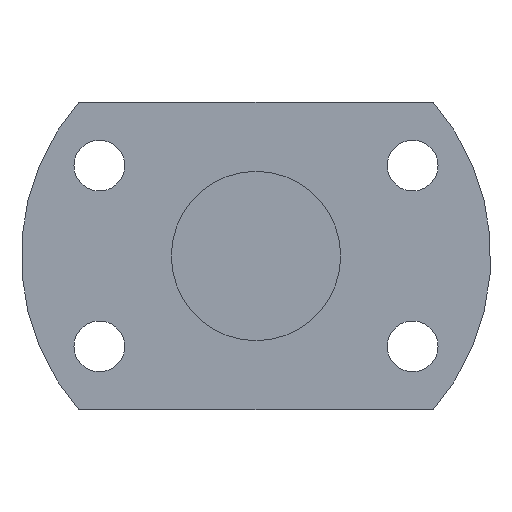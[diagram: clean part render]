
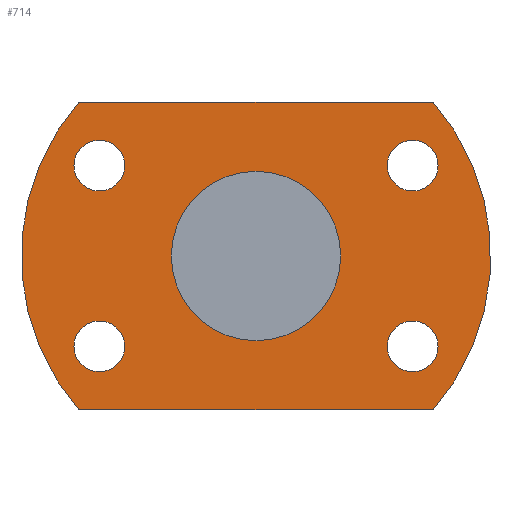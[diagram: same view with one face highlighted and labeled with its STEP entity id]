
A CAD part, left-side view. The second image highlights one B-rep face of the part: STEP entity #714.
In plain terms, the highlighted planar face has unit normal (-1, 0, 0).
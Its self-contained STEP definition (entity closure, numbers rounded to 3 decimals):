
#230=CARTESIAN_POINT('',(125.0,20.352,-8.45));
#231=VERTEX_POINT('',#230);
#232=CARTESIAN_POINT('',(125.0,20.352,-11.75));
#233=DIRECTION('',(1.0,0.0,0.0));
#234=DIRECTION('',(0.0,0.0,1.0));
#235=AXIS2_PLACEMENT_3D('',#232,#233,#234);
#236=CIRCLE('',#235,3.3);
#237=EDGE_CURVE('',#231,#231,#236,.T.);
#279=CARTESIAN_POINT('',(125.0,-20.352,15.05));
#280=VERTEX_POINT('',#279);
#281=CARTESIAN_POINT('',(125.0,-20.352,11.75));
#282=DIRECTION('',(1.0,0.0,0.0));
#283=DIRECTION('',(0.0,0.0,1.0));
#284=AXIS2_PLACEMENT_3D('',#281,#282,#283);
#285=CIRCLE('',#284,3.3);
#286=EDGE_CURVE('',#280,#280,#285,.T.);
#328=CARTESIAN_POINT('',(125.0,-20.352,-8.45));
#329=VERTEX_POINT('',#328);
#330=CARTESIAN_POINT('',(125.0,-20.352,-11.75));
#331=DIRECTION('',(1.0,0.0,0.0));
#332=DIRECTION('',(0.0,0.0,1.0));
#333=AXIS2_PLACEMENT_3D('',#330,#331,#332);
#334=CIRCLE('',#333,3.3);
#335=EDGE_CURVE('',#329,#329,#334,.T.);
#377=CARTESIAN_POINT('',(125.0,20.352,15.05));
#378=VERTEX_POINT('',#377);
#379=CARTESIAN_POINT('',(125.0,20.352,11.75));
#380=DIRECTION('',(1.0,0.0,0.0));
#381=DIRECTION('',(0.0,0.0,1.0));
#382=AXIS2_PLACEMENT_3D('',#379,#380,#381);
#383=CIRCLE('',#382,3.3);
#384=EDGE_CURVE('',#378,#378,#383,.T.);
#548=CARTESIAN_POINT('',(125.0,-23.027,-20.0));
#549=VERTEX_POINT('',#548);
#556=CARTESIAN_POINT('',(125.0,23.027,-20.0));
#557=VERTEX_POINT('',#556);
#558=CARTESIAN_POINT('',(125.0,23.027,-20.0));
#559=DIRECTION('',(0.0,-1.0,0.0));
#560=VECTOR('',#559,46.054);
#561=LINE('',#558,#560);
#562=EDGE_CURVE('',#557,#549,#561,.T.);
#579=CARTESIAN_POINT('',(125.0,-23.027,20.0));
#580=VERTEX_POINT('',#579);
#587=CARTESIAN_POINT('',(125.0,0.0,0.0));
#588=DIRECTION('',(-1.0,0.0,0.0));
#589=DIRECTION('',(0.0,0.0,1.0));
#590=AXIS2_PLACEMENT_3D('',#587,#588,#589);
#591=CIRCLE('',#590,30.5);
#592=EDGE_CURVE('',#549,#580,#591,.T.);
#604=CARTESIAN_POINT('',(125.0,23.027,20.0));
#605=VERTEX_POINT('',#604);
#612=CARTESIAN_POINT('',(125.0,-23.027,20.0));
#613=DIRECTION('',(0.0,1.0,0.0));
#614=VECTOR('',#613,46.054);
#615=LINE('',#612,#614);
#616=EDGE_CURVE('',#580,#605,#615,.T.);
#629=CARTESIAN_POINT('',(125.0,0.0,0.0));
#630=DIRECTION('',(-1.0,0.0,0.0));
#631=DIRECTION('',(0.0,0.0,1.0));
#632=AXIS2_PLACEMENT_3D('',#629,#630,#631);
#633=CIRCLE('',#632,30.5);
#634=EDGE_CURVE('',#605,#557,#633,.T.);
#680=CARTESIAN_POINT('',(125.0,0.0,14.5));
#681=DIRECTION('',(-1.0,0.0,0.0));
#682=DIRECTION('',(0.0,0.0,1.0));
#683=AXIS2_PLACEMENT_3D('',#680,#681,#682);
#684=PLANE('',#683);
#685=ORIENTED_EDGE('',*,*,#634,.T.);
#686=ORIENTED_EDGE('',*,*,#562,.T.);
#687=ORIENTED_EDGE('',*,*,#592,.T.);
#688=ORIENTED_EDGE('',*,*,#616,.T.);
#689=EDGE_LOOP('',(#685,#686,#687,#688));
#690=FACE_OUTER_BOUND('',#689,.T.);
#691=ORIENTED_EDGE('',*,*,#237,.T.);
#692=EDGE_LOOP('',(#691));
#693=FACE_BOUND('',#692,.T.);
#694=ORIENTED_EDGE('',*,*,#286,.T.);
#695=EDGE_LOOP('',(#694));
#696=FACE_BOUND('',#695,.T.);
#697=ORIENTED_EDGE('',*,*,#335,.T.);
#698=EDGE_LOOP('',(#697));
#699=FACE_BOUND('',#698,.T.);
#700=ORIENTED_EDGE('',*,*,#384,.T.);
#701=EDGE_LOOP('',(#700));
#702=FACE_BOUND('',#701,.T.);
#703=CARTESIAN_POINT('',(125.0,0.0,11.));
#704=VERTEX_POINT('',#703);
#705=CARTESIAN_POINT('',(125.0,0.0,0.0));
#706=DIRECTION('',(-1.0,0.0,0.0));
#707=DIRECTION('',(0.0,0.0,1.0));
#708=AXIS2_PLACEMENT_3D('',#705,#706,#707);
#709=CIRCLE('',#708,11.);
#710=EDGE_CURVE('',#704,#704,#709,.T.);
#711=ORIENTED_EDGE('',*,*,#710,.F.);
#712=EDGE_LOOP('',(#711));
#713=FACE_BOUND('',#712,.T.);
#714=ADVANCED_FACE('',(#690,#693,#696,#699,#702,#713),#684,.T.);
